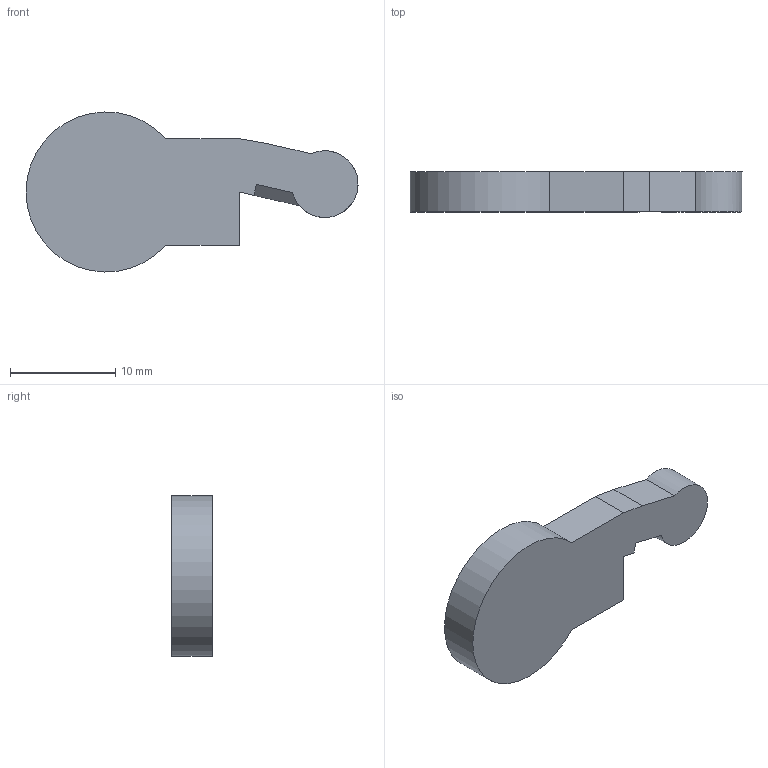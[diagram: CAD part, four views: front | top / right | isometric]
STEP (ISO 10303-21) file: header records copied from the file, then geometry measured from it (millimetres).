
FILE_DESCRIPTION(/* description */ (''),/* implementation_level */ '2;1');
FILE_NAME(/* name */ 'C:/Users/Ryan/Documents/AIO Robotics/CAD Files/WristJoint1.step',/* time_stamp */ '2017-02-04T20:44:58-08:00',/* author */ (''),/* organization */ (''),/* preprocessor_version */ 'ST-DEVELOPER v16.5',/* originating_system */ 'Autodesk Translation Framework v5.2.0.2920',/* authorisation */ '');
FILE_SCHEMA (('AUTOMOTIVE_DESIGN { 1 0 10303 214 3 1 1 }'));
Length unit declared in the file: inch
Products named in the file (1): WristJoint v12
Bounding box: 31.62 x 3.81 x 15.24 mm (x, y, z)
Volume: 1137.6 mm3; surface area: 913.6 mm2
Topology: 1 solids, 1 shells, 12 faces, 30 edges, 20 vertices
Faces by surface type: plane 10, cylinder 2
Entity records: 383 total; most frequent: CARTESIAN_POINT 63, DIRECTION 61, ORIENTED_EDGE 60, EDGE_CURVE 30, LINE 25, VECTOR 25, VERTEX_POINT 20, AXIS2_PLACEMENT_3D 18
